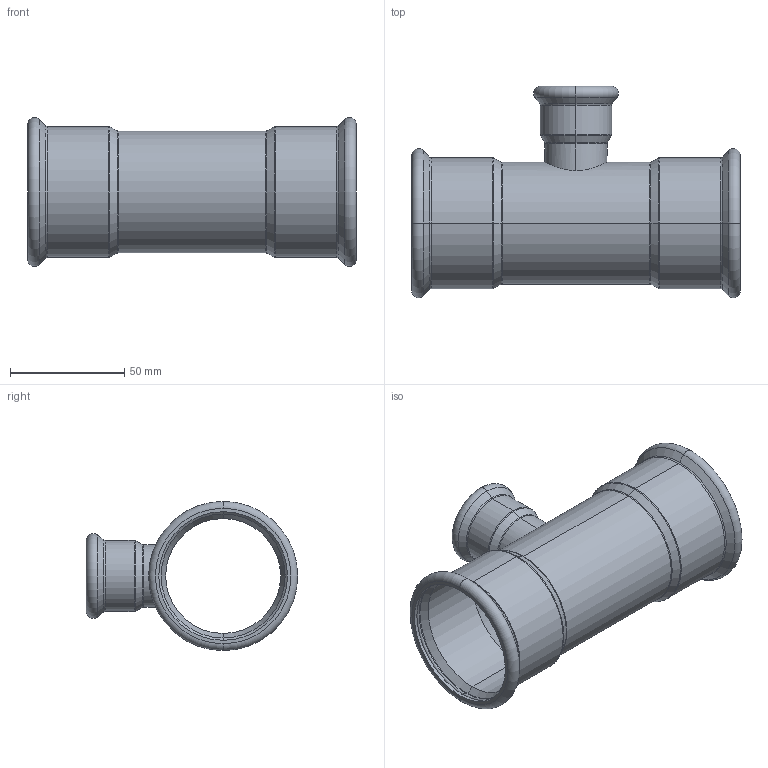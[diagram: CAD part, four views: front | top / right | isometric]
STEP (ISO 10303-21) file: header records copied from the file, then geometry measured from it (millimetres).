
FILE_DESCRIPTION (( 'STEP AP214' ), '1' );
FILE_NAME ('T54280R.STEP', '2025-08-18T00:37:12', ( '' ), ( '' ), 'SwSTEP 2.0', 'SolidWorks 2020', '' );
FILE_SCHEMA (( 'AUTOMOTIVE_DESIGN' ));
Length unit declared in the file: millimetre
Products named in the file (1): T54280R
Bounding box: 144 x 92.7 x 65.39 mm (x, y, z)
Volume: 45306 mm3; surface area: 62077.1 mm2
Topology: 4 solids, 4 shells, 98 faces, 198 edges, 106 vertices
Faces by surface type: torus 42, cylinder 26, cone 24, plane 6
Entity records: 3892 total; most frequent: CARTESIAN_POINT 602, DIRECTION 536, ORIENTED_EDGE 396, AXIS2_PLACEMENT_3D 243, EDGE_CURVE 198, CIRCLE 144, EDGE_LOOP 106, VERTEX_POINT 106
